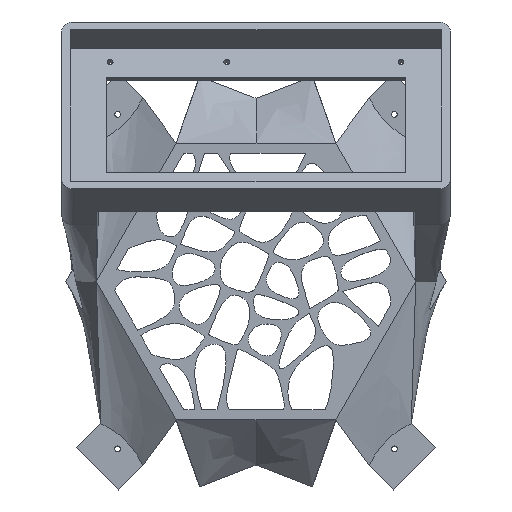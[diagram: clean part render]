
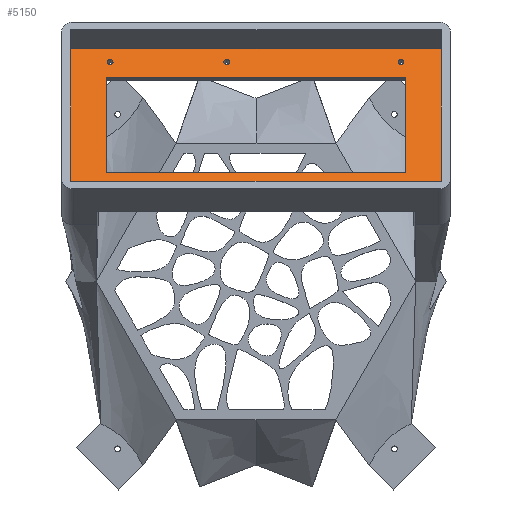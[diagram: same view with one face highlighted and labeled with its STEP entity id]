
A CAD part, top view. The second image highlights one B-rep face of the part: STEP entity #5150.
In plain terms, the highlighted planar face has unit normal (0, 0.574, 0.819).
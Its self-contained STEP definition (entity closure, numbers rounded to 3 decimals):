
#217=FACE_BOUND('',#673,.T.);
#218=FACE_BOUND('',#674,.T.);
#219=FACE_BOUND('',#675,.T.);
#220=FACE_BOUND('',#676,.T.);
#221=FACE_BOUND('',#677,.T.);
#222=FACE_BOUND('',#678,.T.);
#223=FACE_BOUND('',#679,.T.);
#298=PLANE('',#5459);
#379=FACE_OUTER_BOUND('',#672,.T.);
#672=EDGE_LOOP('',(#3617,#3618,#3619,#3620));
#673=EDGE_LOOP('',(#3621));
#674=EDGE_LOOP('',(#3622));
#675=EDGE_LOOP('',(#3623));
#676=EDGE_LOOP('',(#3624,#3625,#3626,#3627));
#677=EDGE_LOOP('',(#3628));
#678=EDGE_LOOP('',(#3629));
#679=EDGE_LOOP('',(#3630));
#1024=CIRCLE('',#5460,1.25);
#1025=CIRCLE('',#5461,1.25);
#1026=CIRCLE('',#5462,1.25);
#1027=CIRCLE('',#5463,1.25);
#1028=CIRCLE('',#5464,1.25);
#1029=CIRCLE('',#5465,1.25);
#1086=LINE('',#6383,#1507);
#1089=LINE('',#6388,#1510);
#1091=LINE('',#6392,#1512);
#1093=LINE('',#6395,#1514);
#1094=LINE('',#6405,#1515);
#1095=LINE('',#6407,#1516);
#1096=LINE('',#6409,#1517);
#1097=LINE('',#6410,#1518);
#1507=VECTOR('',#5642,10.);
#1510=VECTOR('',#5647,10.);
#1512=VECTOR('',#5651,10.);
#1514=VECTOR('',#5655,10.);
#1515=VECTOR('',#5664,10.);
#1516=VECTOR('',#5665,10.);
#1517=VECTOR('',#5666,10.);
#1518=VECTOR('',#5667,10.);
#2279=VERTEX_POINT('',#6381);
#2280=VERTEX_POINT('',#6382);
#2281=VERTEX_POINT('',#6387);
#2282=VERTEX_POINT('',#6391);
#2283=VERTEX_POINT('',#6397);
#2284=VERTEX_POINT('',#6399);
#2285=VERTEX_POINT('',#6401);
#2286=VERTEX_POINT('',#6403);
#2287=VERTEX_POINT('',#6404);
#2288=VERTEX_POINT('',#6406);
#2289=VERTEX_POINT('',#6408);
#2290=VERTEX_POINT('',#6411);
#2291=VERTEX_POINT('',#6413);
#2292=VERTEX_POINT('',#6415);
#2794=EDGE_CURVE('',#2279,#2280,#1086,.T.);
#2797=EDGE_CURVE('',#2280,#2281,#1089,.T.);
#2799=EDGE_CURVE('',#2281,#2282,#1091,.T.);
#2801=EDGE_CURVE('',#2282,#2279,#1093,.T.);
#2802=EDGE_CURVE('',#2283,#2283,#1024,.T.);
#2803=EDGE_CURVE('',#2284,#2284,#1025,.T.);
#2804=EDGE_CURVE('',#2285,#2285,#1026,.T.);
#2805=EDGE_CURVE('',#2286,#2287,#1094,.T.);
#2806=EDGE_CURVE('',#2288,#2286,#1095,.T.);
#2807=EDGE_CURVE('',#2289,#2288,#1096,.T.);
#2808=EDGE_CURVE('',#2287,#2289,#1097,.T.);
#2809=EDGE_CURVE('',#2290,#2290,#1027,.T.);
#2810=EDGE_CURVE('',#2291,#2291,#1028,.T.);
#2811=EDGE_CURVE('',#2292,#2292,#1029,.T.);
#3617=ORIENTED_EDGE('',*,*,#2794,.T.);
#3618=ORIENTED_EDGE('',*,*,#2797,.T.);
#3619=ORIENTED_EDGE('',*,*,#2799,.T.);
#3620=ORIENTED_EDGE('',*,*,#2801,.T.);
#3621=ORIENTED_EDGE('',*,*,#2802,.F.);
#3622=ORIENTED_EDGE('',*,*,#2803,.F.);
#3623=ORIENTED_EDGE('',*,*,#2804,.F.);
#3624=ORIENTED_EDGE('',*,*,#2805,.F.);
#3625=ORIENTED_EDGE('',*,*,#2806,.F.);
#3626=ORIENTED_EDGE('',*,*,#2807,.F.);
#3627=ORIENTED_EDGE('',*,*,#2808,.F.);
#3628=ORIENTED_EDGE('',*,*,#2809,.F.);
#3629=ORIENTED_EDGE('',*,*,#2810,.F.);
#3630=ORIENTED_EDGE('',*,*,#2811,.F.);
#5150=ADVANCED_FACE('',(#379,#217,#218,#219,#220,#221,#222,#223),#298,.F.);
#5459=AXIS2_PLACEMENT_3D('',#6396,#5656,#5657);
#5460=AXIS2_PLACEMENT_3D('',#6398,#5658,#5659);
#5461=AXIS2_PLACEMENT_3D('',#6400,#5660,#5661);
#5462=AXIS2_PLACEMENT_3D('',#6402,#5662,#5663);
#5463=AXIS2_PLACEMENT_3D('',#6412,#5668,#5669);
#5464=AXIS2_PLACEMENT_3D('',#6414,#5670,#5671);
#5465=AXIS2_PLACEMENT_3D('',#6416,#5672,#5673);
#5642=DIRECTION('',(0.,-0.819,0.574));
#5647=DIRECTION('',(1.,0.,0.));
#5651=DIRECTION('',(0.,0.819,-0.574));
#5655=DIRECTION('',(-1.,0.,0.));
#5656=DIRECTION('center_axis',(0.,-0.574,
-0.819));
#5657=DIRECTION('ref_axis',(-1.,0.,0.));
#5658=DIRECTION('center_axis',(0.,0.574,0.819));
#5659=DIRECTION('ref_axis',(-1.,0.,0.));
#5660=DIRECTION('center_axis',(0.,0.574,0.819));
#5661=DIRECTION('ref_axis',(-1.,0.,0.));
#5662=DIRECTION('center_axis',(0.,0.574,0.819));
#5663=DIRECTION('ref_axis',(-1.,0.,0.));
#5664=DIRECTION('',(0.,0.819,-0.574));
#5665=DIRECTION('',(1.,0.,0.));
#5666=DIRECTION('',(0.,-0.819,0.574));
#5667=DIRECTION('',(-1.,0.,0.));
#5668=DIRECTION('center_axis',(0.,0.574,0.819));
#5669=DIRECTION('ref_axis',(-1.,0.,0.));
#5670=DIRECTION('center_axis',(0.,0.574,0.819));
#5671=DIRECTION('ref_axis',(-1.,0.,0.));
#5672=DIRECTION('center_axis',(0.,0.574,0.819));
#5673=DIRECTION('ref_axis',(-1.,0.,0.));
#6381=CARTESIAN_POINT('',(-280.486,90.952,78.234));
#6382=CARTESIAN_POINT('',(-280.486,25.01,124.407));
#6383=CARTESIAN_POINT('',(-280.486,41.496,112.864));
#6387=CARTESIAN_POINT('',(-119.986,25.01,124.407));
#6388=CARTESIAN_POINT('',(-160.111,25.01,124.407));
#6391=CARTESIAN_POINT('',(-119.986,90.952,78.234));
#6392=CARTESIAN_POINT('',(-119.986,74.467,89.778));
#6395=CARTESIAN_POINT('',(-240.361,90.952,78.234));
#6396=CARTESIAN_POINT('Origin',(-200.236,57.981,101.321));
#6397=CARTESIAN_POINT('',(-186.726,30.753,120.386));
#6398=CARTESIAN_POINT('Origin',(-187.976,30.753,120.386));
#6399=CARTESIAN_POINT('',(-136.066,85.21,82.255));
#6400=CARTESIAN_POINT('Origin',(-137.316,85.21,82.255));
#6401=CARTESIAN_POINT('',(-135.946,30.753,120.386));
#6402=CARTESIAN_POINT('Origin',(-137.196,30.753,120.386));
#6403=CARTESIAN_POINT('',(-135.236,37.298,115.804));
#6404=CARTESIAN_POINT('',(-135.236,78.665,86.838));
#6405=CARTESIAN_POINT('',(-135.236,25.215,124.264));
#6406=CARTESIAN_POINT('',(-265.236,37.298,115.804));
#6407=CARTESIAN_POINT('',(-280.486,37.298,115.804));
#6408=CARTESIAN_POINT('',(-265.236,78.665,86.838));
#6409=CARTESIAN_POINT('',(-265.236,90.747,78.378));
#6410=CARTESIAN_POINT('',(-119.986,78.665,86.838));
#6411=CARTESIAN_POINT('',(-262.216,30.753,120.386));
#6412=CARTESIAN_POINT('Origin',(-263.466,30.753,120.386));
#6413=CARTESIAN_POINT('',(-262.226,85.21,82.255));
#6414=CARTESIAN_POINT('Origin',(-263.476,85.21,82.255));
#6415=CARTESIAN_POINT('',(-211.696,85.21,82.255));
#6416=CARTESIAN_POINT('Origin',(-212.946,85.21,82.255));
